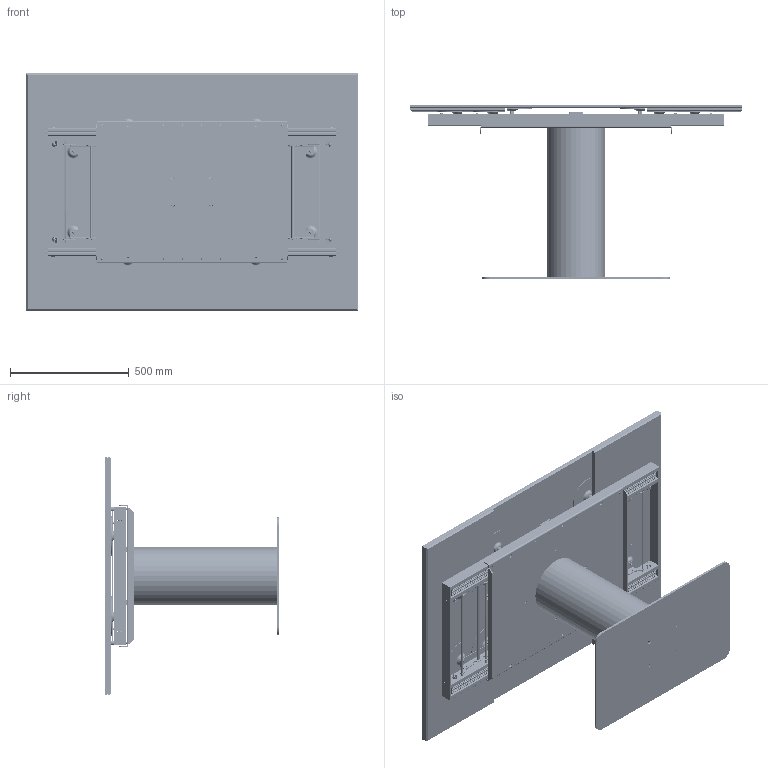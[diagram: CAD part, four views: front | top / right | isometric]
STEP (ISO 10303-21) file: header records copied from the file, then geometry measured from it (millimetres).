
FILE_DESCRIPTION (( 'STEP AP203' ), '1' );
FILE_NAME ('CA32C_CHIUSO.STEP', '2024-08-08T07:37:06', ( '' ), ( '' ), 'SwSTEP 2.0', 'SolidWorks 2022', '' );
FILE_SCHEMA (( 'CONFIG_CONTROL_DESIGN' ));
Length unit declared in the file: millimetre
Products named in the file (74): 1000443^RUOTA NEB H23,4_5210611 TEL INT_CHIUSO_TTAV05-00-Telaio allungabile per tavolo san babila; FERMO NEBULA H25^5210611 TEL EST_DEFAULT_TTAV05-00-Telaio allungabile per tavolo san babila; vite_allunghe; 1001248^5210611 TEL EST_DEFAULT_TTAV05-00-Telaio allungabile per tavolo san babila; M6xXXmm_M6x45mm; 5210611 SAL_LIBERO^5210611 TEL INT_CHIUSO_TTAV05-00-Telaio allungabile per tavolo san babila_chiuso; 5210611 TEL INT_CHIUSO^TTAV05-00-Telaio allungabile per tavolo san babila_chiuso; 1000304^5210611 TEL INT_CHIUSO_TTAV05-00-Telaio allungabile per tavolo san babila; 1000096^5210611 TEL INT_CHIUSO_TTAV05-00-Telaio allungabile per tavolo san babila; 1000242(2)^FERMO NEBULA H15,5(2)_5210611 TEL EST_DEFAULT_TTAV05-00-Telaio allungabile per tavolo san babila; 1000443(2)^RUOTA NEB H23,4(2)_5210611 TEL EST_DEFAULT_TTAV05-00-Telaio allungabile per tavolo san babila; TTAV05-00-Telaio allungabile per tavolo san babila_chiuso; 521061107_DEFAULT^5210611 SAL_LIBERO_5210611 TEL INT_CHIUSO_TTAV05-00-Telaio allungabile per tavolo san babila; 521061111^5210611 TEL EST_DEFAULT_TTAV05-00-Telaio allungabile per tavolo san babila; K3XXXX-00-Piani allungabili in ceramica_K32 140x100 TTAV05; 1000084(2)^RUOTA NEB H23,4(2)_5210611 TEL EST_DEFAULT_TTAV05-00-Telaio allungabile per tavolo san babila; 1000034^FERMO NEBULA H25_5210611 TEL EST_DEFAULT_TTAV05-00-Telaio allungabile per tavolo san babila; 1000170^5210611 TEL INT_CHIUSO_TTAV05-00-Telaio allungabile per tavolo san babila; M8xXXmm_hex_M8X20mm; K3XA-00-Allunghe per Piani Allungabili centrale_K32A 100x40 TTAV05; DISCO PER PIANI IN CERAMICA; Morsa tavolo CIRO''; 1000338^RUOTA NEB H23,4_5210611 TEL INT_CHIUSO_TTAV05-00-Telaio allungabile per tavolo san babila; FERMO NEBULA H15,5^5210611 TEL INT_CHIUSO_TTAV05-00-Telaio allungabile per tavolo san babila; 521061106^5210611 SAL_LIBERO_5210611 TEL INT_CHIUSO_TTAV05-00-Telaio allungabile per tavolo san babila; 1000338(2)^RUOTA NEB H23,4(2)_5210611 TEL EST_DEFAULT_TTAV05-00-Telaio allungabile per tavolo san babila; 1000144^5210611 TEL EST_DEFAULT_TTAV05-00-Telaio allungabile per tavolo san babila; 1000375^5210611 TEL INT_CHIUSO_TTAV05-00-Telaio allungabile per tavolo san babila; 1000289^5210611 TEL INT_CHIUSO_TTAV05-00-Telaio allungabile per tavolo san babila; 521061113^5210611 TEL EST_DEFAULT_TTAV05-00-Telaio allungabile per tavolo san babila; SAB000002_01-01-CILINDRO ALL.140_220 PIASTRA SOPRA; 1000808^5210611 TEL EST_DEFAULT_TTAV05-00-Telaio allungabile per tavolo san babila; 5210611 TEL EST_DEFAULT^TTAV05-00-Telaio allungabile per tavolo san babila; SAB100201-00-CILINDRO ALL.140_220 PIASTRA SOTTO; 1000249^5210611 GUI_TTAV05-00-Telaio allungabile per tavolo san babila; 521061109^5210611 TEL INT_CHIUSO_TTAV05-00-Telaio allungabile per tavolo san babila; RUOTA NEB H23,4(2)^5210611 TEL EST_DEFAULT_TTAV05-00-Telaio allungabile per tavolo san babila; 1000515(2)^FERMO NEBULA H15,5(2)_5210611 TEL EST_DEFAULT_TTAV05-00-Telaio allungabile per tavolo san babila; K3XAXXX-00-Allunghe dei piani allungabili in ceramica_K32A 100X40 TTAV05; 521061105^5210611 SAL_LIBERO_5210611 TEL INT_CHIUSO_TTAV05-00-Telaio allungabile per tavolo san babila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
Assembly tree (186 placements, depth 5):
  CA32C_CHIUSO
    K3XAXXX-00-Allunghe dei piani allungabili in ceramica_K32A 100X40 TTAV05  x2
      K3XA-00-Allunghe per Piani Allungabili centrale_K32A 100x40 TTAV05
      DISCO PER PIANI IN CERAMICA
    K3XXXX-00-Piani allungabili in ceramica_K32 140x100 TTAV05
      K3X-00-Piani Allungabili centrale_K32 140x100 TTAV05
      DISCO PER PIANI IN CERAMICA  x4
    CIR000000-00-ASSIEME BASAMENTO CILINDRO ALLUNGABILE
      SAB100201-00-CILINDRO ALL.140_220 PIASTRA SOTTO
      SAB000000-00-CILINDRO ALL.COLONNA D.25m
      M8xXXmm_hex_M8X20mm  x4
      SAB000002-01-CILINDRO ALL.140_220 PIASTRA SOPRA
        SAB000002_01-01-CILINDRO ALL.140_220 PIASTRA SOPRA
        SAB000002_02-01-CILINDRO ALL.140_220 PIASTRA SOPRA  x2
    TTAV05-00-Telaio allungabile per tavolo san babila_chiuso
      5210611 GUI^TTAV05-00-Telaio allungabile per tavolo san babila  x4
        1000249^5210611 GUI_TTAV05-00-Telaio allungabile per tavolo san babila
        521061112^5210611 GUI_TTAV05-00-Telaio allungabile per tavolo san babila
      5210611 TEL INT_CHIUSO^TTAV05-00-Telaio allungabile per tavolo san babila_chiuso  x2
        RUOTA NEB H23,4^5210611 TEL INT_CHIUSO_TTAV05-00-Telaio allungabile per tavolo san babila
          1000338^RUOTA NEB H23,4_5210611 TEL INT_CHIUSO_TTAV05-00-Telaio allungabile per tavolo san babila
          1000443^RUOTA NEB H23,4_5210611 TEL INT_CHIUSO_TTAV05-00-Telaio allungabile per tavolo san babila
          1000084^RUOTA NEB H23,4_5210611 TEL INT_CHIUSO_TTAV05-00-Telaio allungabile per tavolo san babila
        5210611 SAL_LIBERO^5210611 TEL INT_CHIUSO_TTAV05-00-Telaio allungabile per tavolo san babila_chiuso
          521061107_DEFAULT^5210611 SAL_LIBERO_5210611 TEL INT_CHIUSO_TTAV05-00-Telaio allungabile per tavolo san babila  x4
          2001011^5210611 SAL_LIBERO_5210611 TEL INT_CHIUSO_TTAV05-00-Telaio allungabile per tavolo san babila  x2
          521061108^5210611 SAL_LIBERO_5210611 TEL INT_CHIUSO_TTAV05-00-Telaio allungabile per tavolo san babila
          521061101^5210611 SAL_LIBERO_5210611 TEL INT_CHIUSO_TTAV05-00-Telaio allungabile per tavolo san babila  x2
          521061104_DEFAULT^5210611 SAL_LIBERO_5210611 TEL INT_CHIUSO_TTAV05-00-Telaio allungabile per tavolo san babila
          521061106^5210611 SAL_LIBERO_5210611 TEL INT_CHIUSO_TTAV05-00-Telaio allungabile per tavolo san babila
          521061105^5210611 SAL_LIBERO_5210611 TEL INT_CHIUSO_TTAV05-00-Telaio allungabile per tavolo san babila
        FERMO NEBULA H15,5^5210611 TEL INT_CHIUSO_TTAV05-00-Telaio allungabile per tavolo san babila
          1000325^FERMO NEBULA H15,5_5210611 TEL INT_CHIUSO_TTAV05-00-Telaio allungabile per tavolo san babila
          1000242^FERMO NEBULA H15,5_5210611 TEL INT_CHIUSO_TTAV05-00-Telaio allungabile per tavolo san babila
          1000515^FERMO NEBULA H15,5_5210611 TEL INT_CHIUSO_TTAV05-00-Telaio allungabile per tavolo san babila
        1000375^5210611 TEL INT_CHIUSO_TTAV05-00-Telaio allungabile per tavolo san babila
        1000973^5210611 TEL INT_CHIUSO_TTAV05-00-Telaio allungabile per tavolo san babila
        1000487^5210611 TEL INT_CHIUSO_TTAV05-00-Telaio allungabile per tavolo san babila
        1000181^5210611 TEL INT_CHIUSO_TTAV05-00-Telaio allungabile per tavolo san babila
        1000289^5210611 TEL INT_CHIUSO_TTAV05-00-Telaio allungabile per tavolo san babila
        1000244^5210611 TEL INT_CHIUSO_TTAV05-00-Telaio allungabile per tavolo san babila
        1000262^5210611 TEL INT_CHIUSO_TTAV05-00-Telaio allungabile per tavolo san babila
        521061102^5210611 TEL INT_CHIUSO_TTAV05-00-Telaio allungabile per tavolo san babila
        Morsa tavolo CIRO''
        1000096^5210611 TEL INT_CHIUSO_TTAV05-00-Telaio allungabile per tavolo san babila
        1000304^5210611 TEL INT_CHIUSO_TTAV05-00-Telaio allungabile per tavolo san babila
        1000170^5210611 TEL INT_CHIUSO_TTAV05-00-Telaio allungabile per tavolo san babila
        521061109^5210611 TEL INT_CHIUSO_TTAV05-00-Telaio allungabile per tavolo san babila
      5210611 TEL EST_DEFAULT^TTAV05-00-Telaio allungabile per tavolo san babila
        RUOTA NEB H23,4(2)^5210611 TEL EST_DEFAULT_TTAV05-00-Telaio allungabile per tavolo san babila  x8
          1000338(2)^RUOTA NEB H23,4(2)_5210611 TEL EST_DEFAULT_TTAV05-00-Telaio allungabile per tavolo san babila
          1000443(2)^RUOTA NEB H23,4(2)_5210611 TEL EST_DEFAULT_TTAV05-00-Telaio allungabile per tavolo san babila
          1000084(2)^RUOTA NEB H23,4(2)_5210611 TEL EST_DEFAULT_TTAV05-00-Telaio allungabile per tavolo san babila
        FERMO NEBULA H15,5(2)^5210611 TEL EST_DEFAULT_TTAV05-00-Telaio allungabile per tavolo san babila  x4
          1000325(2)^FERMO NEBULA H15,5(2)_5210611 TEL EST_DEFAULT_TTAV05-00-Telaio allungabile per tavolo san babila
          1000242(2)^FERMO NEBULA H15,5(2)_5210611 TEL EST_DEFAULT_TTAV05-00-Telaio allungabile per tavolo san babila
          1000515(2)^FERMO NEBULA H15,5(2)_5210611 TEL EST_DEFAULT_TTAV05-00-Telaio allungabile per tavolo san babila
        FERMO NEBULA H25^5210611 TEL EST_DEFAULT_TTAV05-00-Telaio allungabile per tavolo san babila  x2
          1000244(2)^FERMO NEBULA H25_5210611 TEL EST_DEFAULT_TTAV05-00-Telaio allungabile per tavolo san babila
          1000495^FERMO NEBULA H25_5210611 TEL EST_DEFAULT_TTAV05-00-Telaio allungabile per tavolo san babila
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Bounding box: 1400.02 x 735.5 x 1000 mm (x, y, z)
Volume: 43813776.6 mm3; surface area: 15514101.7 mm2
Topology: 271 solids, 271 shells, 9060 faces, 22134 edges, 13848 vertices
Faces by surface type: plane 4158, cylinder 2978, bspline 1024, cone 708, torus 192
Entity records: 70793 total; most frequent: CARTESIAN_POINT 21294, ORIENTED_EDGE 10072, DIRECTION 5368, EDGE_CURVE 5036, VERTEX_POINT 3208, AXIS2_PLACEMENT_3D 2413, EDGE_LOOP 2326, B_SPLINE_CURVE_WITH_KNOTS 2301
